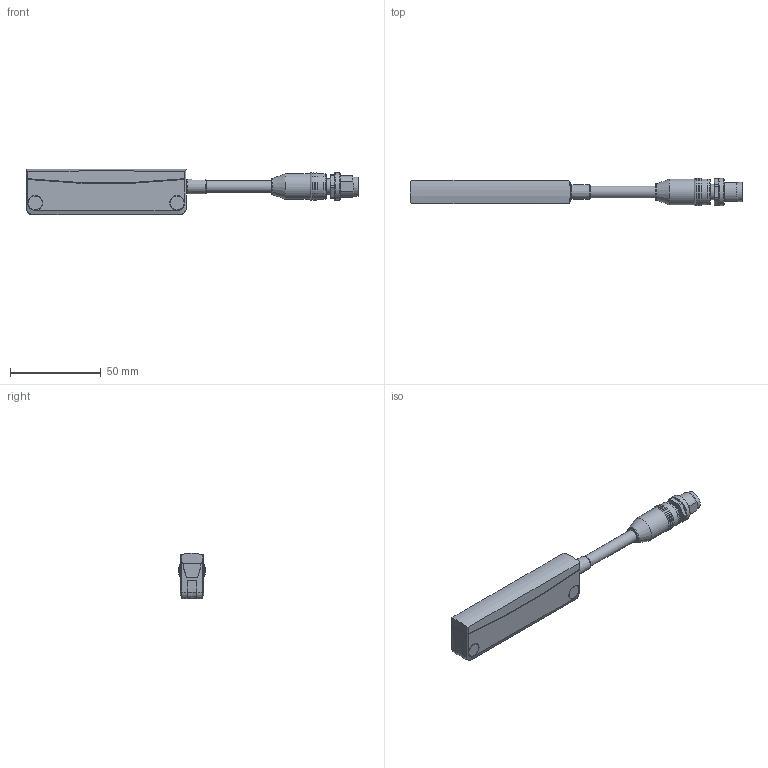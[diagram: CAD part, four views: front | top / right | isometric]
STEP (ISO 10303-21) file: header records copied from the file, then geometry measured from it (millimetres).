
FILE_DESCRIPTION(/* description */ ('Katalogmodell Elobau'),/* implementation_level */ '2;1');
FILE_NAME(/* name */ 'Katalogdaten.stp',/* time_stamp */ '2015-04-27T09:27:01+02:00',/* author */ ('Elobau GmbH & Co. KG'),/* organization */ ('Elobau GmbH & Co. KG'),/* preprocessor_version */ 'ST-DEVELOPER v15',/* originating_system */ 'SIEMENS PLM Software NX 8.5',/* authorisation */ '');
FILE_SCHEMA (('AUTOMOTIVE_DESIGN { 1 0 10303 214 3 1 1 1 }'));
Length unit declared in the file: millimetre
Products named in the file (1): 165ESK00J..._A
Bounding box: 182.5 x 15 x 24.93 mm (x, y, z)
Volume: 34441.9 mm3; surface area: 11748.8 mm2
Topology: 5 solids, 5 shells, 180 faces, 421 edges, 274 vertices
Faces by surface type: plane 57, cylinder 55, bspline 44, cone 16, torus 6, sphere 2
Full cylindrical faces by diameter (mm): 0.8 x8, 4.5 x2, 6.5 x1, 7.6 x4, 7.9 x1, 8.2 x4, 8.3 x1, 8.4 x1, 9 x1, 10.5 x1, 14.2 x4, 15 x1
Entity records: 7268 total; most frequent: CARTESIAN_POINT 2963, ORIENTED_EDGE 716, DIRECTION 604, EDGE_CURVE 358, AXIS2_PLACEMENT_3D 274, VERTEX_POINT 264, EDGE_LOOP 260, ADVANCED_FACE 180
